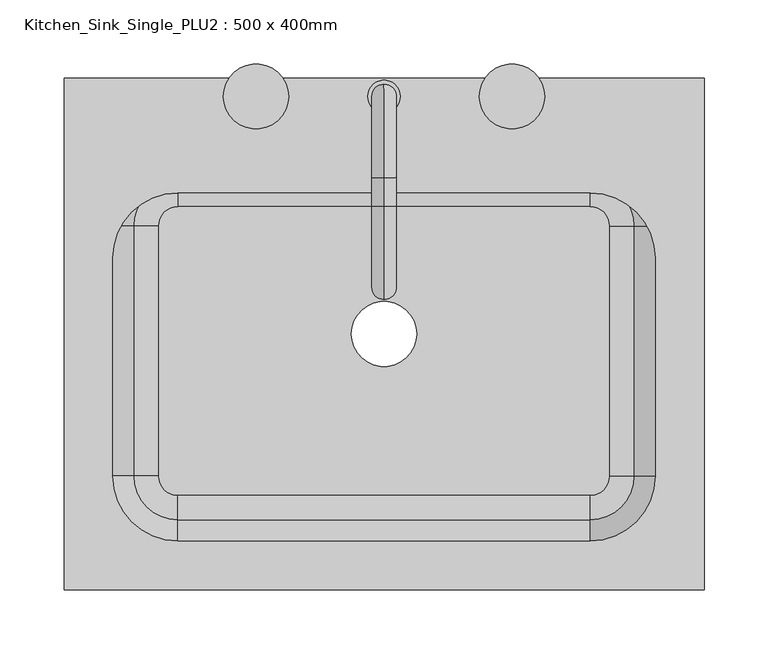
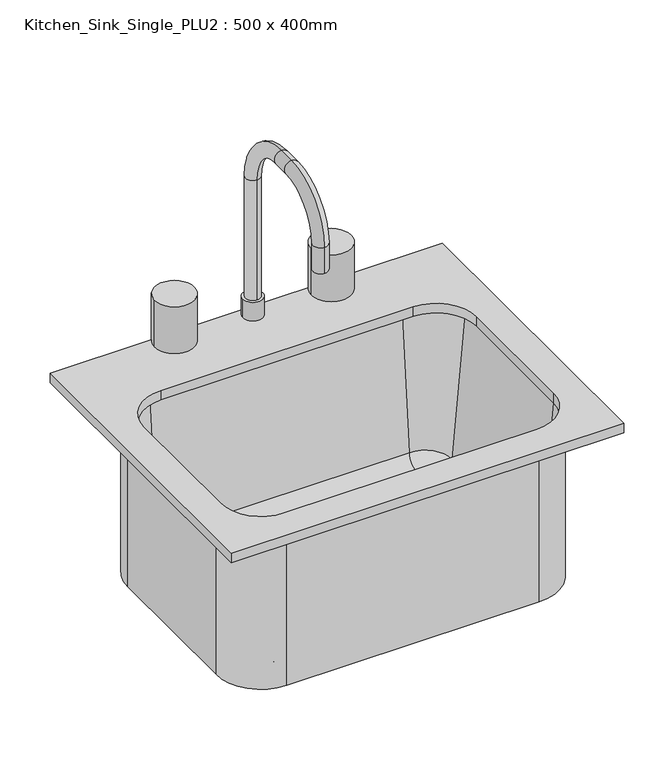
"""IFC4 building model written with IfcOpenShell, lengths in millimetres: flow terminal geometry, Kitchen_Sink_Single_PLU2 : 500 x 400mm."""

from ifc_helpers import new_model, si_unit, point, frame, frame_2d, origin, origin_with_axes, place, context, project, spatial, polyline, circle_curve, ellipse_curve, trimmed, segment, composite_curve, outline, extrude, source, transform, mapped, element, save
from ifc_brep_helpers import plane_surface, cylinder_surface, revolved_surface, advanced_brep


def kitchen_sink_single_plu2_500_x_400mm_02a16abf(model_context):
    return source(origin(), model_context, "Body", "SolidModel", [
        extrude(outline(polyline([(250.0, 200.0), (250.0, -200.0), (-250.0, -200.0), (-250.0, 200.0), (250.0, 200.0)]), holes=[composite_curve([segment(polyline([(161.1, 110.0710828), (-161.1, 110.0710828)]), True, "CONTINUOUS"), segment(trimmed(circle_curve(frame_2d((-161.1, 59.2710828)), 50.8), [point((-161.1, 110.0710828))], [point((-211.9, 59.2710828))], True, "CARTESIAN"), True, "CONTINUOUS"), segment(polyline([(-211.9, 59.2710828), (-211.9, -111.1)]), True, "CONTINUOUS"), segment(trimmed(circle_curve(frame_2d((-161.1, -111.1)), 50.8), [point((-211.9, -111.1))], [point((-161.1, -161.9))], True, "CARTESIAN"), True, "CONTINUOUS"), segment(polyline([(-161.1, -161.9), (161.1, -161.9)]), True, "CONTINUOUS"), segment(trimmed(circle_curve(frame_2d((161.1, -111.1)), 50.8), [point((161.1, -161.9))], [point((211.9, -111.1))], True, "CARTESIAN"), True, "CONTINUOUS"), segment(polyline([(211.9, -111.1), (211.9, 59.2710828)]), True, "CONTINUOUS"), segment(trimmed(circle_curve(frame_2d((161.1, 59.2710828)), 50.8), [point((211.9, 59.2710828))], [point((161.1, 110.0710828))], True, "CARTESIAN"), True, "CONTINUOUS")], self_intersect=False)]), origin_with_axes(), (0.0, 0.0, 1.0), 12.7),
        extrude(outline(composite_curve([segment(trimmed(circle_curve(frame_2d((0.0, 185.59958)), 12.7), [point((-12.7, 185.59958))], [point((12.7, 185.59958))], False, "CARTESIAN"), True, "CONTINUOUS"), segment(trimmed(circle_curve(frame_2d((0.0, 185.59958)), 12.7), [point((12.7, 185.59958))], [point((-12.7, 185.59958))], False, "CARTESIAN"), True, "CONTINUOUS")], self_intersect=False)), frame((0.0, 0.0, 12.7), z_axis=(0.0, 0.0, 1.0), x_axis=(1.0, 0.0, 0.0)), (0.0, 0.0, 1.0), 25.4),
        advanced_brep(
        [(0.0, 195.12458, 12.7), (0.0, 176.07458, 12.7), (0.0, 195.12458, 200.025), (0.0, 176.07458, 200.025), (0.0, 122.09958, 254.0), (0.0, 122.09958, 273.05), (0.0, 99.87458, 273.05), (0.0, 99.87458, 254.0), (0.0, 45.89958, 200.025), (0.0, 26.84958, 200.025), (0.0, 26.84958, 165.1), (0.0, 45.89958, 165.1)],
        [
            (0, 1, circle_curve(frame((0.0, 185.59958, 12.7), z_axis=(0.0, 0.0, -1.0), x_axis=(0.0, -1.0, 0.0)), 9.525)),
            (1, 0, circle_curve(frame((0.0, 185.59958, 12.7), z_axis=(0.0, 0.0, -1.0), x_axis=(0.0, -1.0, 0.0)), 9.525)),
            (0, 2),
            (2, 3, circle_curve(frame((0.0, 185.59958, 200.025), z_axis=(0.0, 0.0, -1.0), x_axis=(0.0, -1.0, 0.0)), 9.525)),
            (3, 1),
            (3, 2, circle_curve(frame((0.0, 185.59958, 200.025), z_axis=(0.0, 0.0, -1.0), x_axis=(0.0, -1.0, 0.0)), 9.525)),
            (4, 3, circle_curve(frame((0.0, 122.09958, 200.025), z_axis=(-1.0, 0.0, 0.0), x_axis=(0.0, 1.0, 0.0)), 53.975)),
            (2, 5, circle_curve(frame((0.0, 122.09958, 200.025), z_axis=(1.0, 0.0, 0.0), x_axis=(0.0, 1.0, 0.0)), 73.025)),
            (5, 4, circle_curve(frame((0.0, 122.09958, 263.525), z_axis=(0.0, 1.0, 0.0), x_axis=(0.0, 0.0, -1.0)), 9.525)),
            (4, 5, circle_curve(frame((0.0, 122.09958, 263.525), z_axis=(0.0, 1.0, 0.0), x_axis=(0.0, 0.0, -1.0)), 9.525)),
            (5, 6),
            (6, 7, circle_curve(frame((0.0, 99.87458, 263.525), z_axis=(0.0, 1.0, 0.0), x_axis=(0.0, 0.0, -1.0)), 9.525)),
            (7, 4),
            (7, 6, circle_curve(frame((0.0, 99.87458, 263.525), z_axis=(0.0, 1.0, 0.0), x_axis=(0.0, 0.0, -1.0)), 9.525)),
            (8, 7, circle_curve(frame((0.0, 99.87458, 200.025), z_axis=(-1.0, 0.0, 0.0), x_axis=(0.0, 0.0, 1.0)), 53.975)),
            (6, 9, circle_curve(frame((0.0, 99.87458, 200.025), z_axis=(1.0, 0.0, 0.0), x_axis=(0.0, 0.0, 1.0)), 73.025)),
            (9, 8, circle_curve(frame((0.0, 36.37458, 200.025), z_axis=(0.0, 0.0, 1.0), x_axis=(0.0, 1.0, 0.0)), 9.525)),
            (8, 9, circle_curve(frame((0.0, 36.37458, 200.025), z_axis=(0.0, 0.0, 1.0), x_axis=(0.0, 1.0, 0.0)), 9.525)),
            (10, 11, circle_curve(frame((0.0, 36.37458, 165.1), z_axis=(0.0, 0.0, -1.0), x_axis=(0.0, 1.0, 0.0)), 9.525)),
            (11, 10, circle_curve(frame((0.0, 36.37458, 165.1), z_axis=(0.0, 0.0, -1.0), x_axis=(0.0, 1.0, 0.0)), 9.525)),
            (9, 10),
            (11, 8),
        ],
        [
            plane_surface(frame((0.0, 176.07458, 12.7), z_axis=(0.0, 0.0, -1.0), x_axis=(1.0, 0.0, 0.0))),
            cylinder_surface(frame((0.0, 185.59958, 12.7), z_axis=(0.0, 0.0, -1.0), x_axis=(0.0, -1.0, 0.0)), 9.525),
            revolved_surface(trimmed(ellipse_curve(frame((0.0, 185.59958, 200.025), z_axis=(0.0, 0.0, -1.0), x_axis=(0.0, -1.0, 0.0)), 9.525, 9.525), [point((0.0, 195.12458, 200.025))], [point((0.0, 176.07458, 200.025))], True, "CARTESIAN"), (0.0, 122.09958, 200.025), (1.0, 0.0, 0.0)),
            revolved_surface(trimmed(ellipse_curve(frame((0.0, 185.59958, 200.025), z_axis=(0.0, 0.0, -1.0), x_axis=(0.0, -1.0, 0.0)), 9.525, 9.525), [point((0.0, 176.07458, 200.025))], [point((0.0, 195.12458, 200.025))], True, "CARTESIAN"), (0.0, 122.09958, 200.025), (1.0, 0.0, 0.0)),
            cylinder_surface(frame((0.0, 122.09958, 263.525), z_axis=(0.0, 1.0, 0.0), x_axis=(0.0, 0.0, -1.0)), 9.525),
            revolved_surface(trimmed(ellipse_curve(frame((0.0, 99.87458, 263.525), z_axis=(0.0, 1.0, 0.0), x_axis=(0.0, 0.0, -1.0)), 9.525, 9.525), [point((0.0, 99.87458, 273.05))], [point((0.0, 99.87458, 254.0))], True, "CARTESIAN"), (0.0, 99.87458, 200.025), (1.0, 0.0, 0.0)),
            revolved_surface(trimmed(ellipse_curve(frame((0.0, 99.87458, 263.525), z_axis=(0.0, 1.0, 0.0), x_axis=(0.0, 0.0, -1.0)), 9.525, 9.525), [point((0.0, 99.87458, 254.0))], [point((0.0, 99.87458, 273.05))], True, "CARTESIAN"), (0.0, 99.87458, 200.025), (1.0, 0.0, 0.0)),
            plane_surface(frame((0.0, 26.84958, 165.1), z_axis=(0.0, 0.0, -1.0), x_axis=(-1.0, 0.0, 0.0))),
            cylinder_surface(frame((0.0, 36.37458, 200.025), z_axis=(0.0, 0.0, 1.0), x_axis=(0.0, 1.0, 0.0)), 9.525),
        ],
        [
            (0, [[1, 2]]),
            (1, [[-1, 3, 4, 5]]),
            (1, [[-2, -5, 6, -3]]),
            (2, [[7, -4, 8, 9]]),
            (3, [[-8, -6, -7, 10]]),
            (4, [[-9, 11, 12, 13]]),
            (4, [[-10, -13, 14, -11]]),
            (5, [[15, -12, 16, 17]]),
            (6, [[-16, -14, -15, 18]]),
            (7, [[19, 20]]),
            (8, [[-17, 21, -20, 22]]),
            (8, [[-18, -22, -19, -21]]),
        ],
    ),
        extrude(outline(composite_curve([segment(trimmed(circle_curve(frame_2d((-100.0, 185.59958)), 25.4), [point((-125.4, 185.59958))], [point((-74.6, 185.59958))], False, "CARTESIAN"), True, "CONTINUOUS"), segment(trimmed(circle_curve(frame_2d((-100.0, 185.59958)), 25.4), [point((-74.6, 185.59958))], [point((-125.4, 185.59958))], False, "CARTESIAN"), True, "CONTINUOUS")], self_intersect=False)), frame((0.0, 0.0, 12.7), z_axis=(0.0, 0.0, 1.0), x_axis=(1.0, 0.0, 0.0)), (0.0, 0.0, 1.0), 63.5),
        extrude(outline(composite_curve([segment(trimmed(circle_curve(frame_2d((100.0, 185.59958)), 25.4), [point((74.6, 185.59958))], [point((125.4, 185.59958))], False, "CARTESIAN"), True, "CONTINUOUS"), segment(trimmed(circle_curve(frame_2d((100.0, 185.59958)), 25.4), [point((125.4, 185.59958))], [point((74.6, 185.59958))], False, "CARTESIAN"), True, "CONTINUOUS")], self_intersect=False)), frame((0.0, 0.0, 12.7), z_axis=(0.0, 0.0, 1.0), x_axis=(1.0, 0.0, 0.0)), (0.0, 0.0, 1.0), 63.5),
        advanced_brep(
        [(218.25, 84.2710828, -215.9), (161.1, 141.4210828, -215.9), (161.1, 141.4210828, 0.0), (218.25, 84.2710828, 0.0), (195.3659272, 84.2710828, -188.9853169), (161.1, 118.53701, -188.9853169), (161.1, 99.559501, -206.375), (176.3884182, 84.2710828, -206.375), (211.9, 84.2710828, 0.0), (161.1, 135.0710828, 0.0), (218.25, -111.1, 0.0), (218.25, -111.1, -215.9), (176.3884182, -111.1, -206.375), (195.3659272, -111.1, -188.9853169), (211.9, -111.1, 0.0), (161.1, -168.25, 0.0), (161.1, -168.25, -215.9), (161.1, -126.3884182, -206.375), (161.1, -145.3659272, -188.9853169), (161.1, -161.9, 0.0), (-161.1, -168.25, 0.0), (-161.1, -168.25, -215.9), (-161.1, -126.3884182, -206.375), (-161.1, -145.3659272, -188.9853169), (-161.1, -161.9, 0.0), (-218.25, -111.1, 0.0), (-218.25, -111.1, -215.9), (-176.3884182, -111.1, -206.375), (-195.3659272, -111.1, -188.9853169), (-211.9, -111.1, 0.0), (-218.25, 84.2710828, 0.0), (-218.25, 84.2710828, -215.9), (-176.3884182, 84.2710828, -206.375), (-195.3659272, 84.2710828, -188.9853169), (-211.9, 84.2710828, 0.0), (-161.1, 141.4210828, 0.0), (-161.1, 141.4210828, -215.9), (-161.1, 99.559501, -206.375), (-161.1, 118.53701, -188.9853169), (-161.1, 135.0710828, 0.0), (-25.4, 0.0, -215.9), (25.4, 0.0, -215.9), (-25.4, 0.0, -206.375), (25.4, 0.0, -206.375)],
        [
            (0, 1, circle_curve(frame((161.1, 84.2710828, -215.9), z_axis=(0.0, 0.0, 1.0), x_axis=(0.0, 1.0, 0.0)), 57.15)),
            (1, 2),
            (2, 3, circle_curve(frame((161.1, 84.2710828, 0.0), z_axis=(0.0, 0.0, -1.0), x_axis=(0.0, 1.0, 0.0)), 57.15)),
            (3, 0),
            (4, 5, circle_curve(frame((161.1, 84.2710828, -188.9853169), z_axis=(0.0, 0.0, 1.0), x_axis=(0.0, 1.0, 0.0)), 34.2659272)),
            (5, 6, circle_curve(frame((161.1, 99.559501, -187.325), z_axis=(-1.0, 0.0, 0.0), x_axis=(0.0, 1.0, 0.0)), 19.05)),
            (6, 7, circle_curve(frame((161.1, 84.2710828, -206.375), z_axis=(0.0, 0.0, -1.0), x_axis=(0.0, 1.0, 0.0)), 15.2884182)),
            (7, 4, circle_curve(frame((176.3884182, 84.2710828, -187.325), z_axis=(0.0, -1.0, 0.0), x_axis=(1.0, 0.0, 0.0)), 19.05)),
            (4, 8),
            (8, 9, circle_curve(frame((161.1, 84.2710828, 0.0), z_axis=(0.0, 0.0, 1.0), x_axis=(0.0, 1.0, 0.0)), 50.8)),
            (9, 5),
            (3, 10),
            (10, 11),
            (11, 0),
            (7, 12),
            (12, 13, circle_curve(frame((176.3884182, -111.1, -187.325), z_axis=(0.0, -1.0, 0.0), x_axis=(1.0, 0.0, 0.0)), 19.05)),
            (13, 4),
            (13, 14),
            (14, 8),
            (10, 15, circle_curve(frame((161.1, -111.1, 0.0), z_axis=(0.0, 0.0, -1.0), x_axis=(1.0, 0.0, 0.0)), 57.15)),
            (15, 16),
            (16, 11, circle_curve(frame((161.1, -111.1, -215.9), z_axis=(0.0, 0.0, 1.0), x_axis=(1.0, 0.0, 0.0)), 57.15)),
            (12, 17, circle_curve(frame((161.1, -111.1, -206.375), z_axis=(0.0, 0.0, -1.0), x_axis=(1.0, 0.0, 0.0)), 15.2884182)),
            (17, 18, circle_curve(frame((161.1, -126.3884182, -187.325), z_axis=(-1.0, 0.0, 0.0), x_axis=(0.0, -1.0, 0.0)), 19.05)),
            (18, 13, circle_curve(frame((161.1, -111.1, -188.9853169), z_axis=(0.0, 0.0, 1.0), x_axis=(1.0, 0.0, 0.0)), 34.2659272)),
            (18, 19),
            (19, 14, circle_curve(frame((161.1, -111.1, 0.0), z_axis=(0.0, 0.0, 1.0), x_axis=(1.0, 0.0, 0.0)), 50.8)),
            (15, 20),
            (20, 21),
            (21, 16),
            (17, 22),
            (22, 23, circle_curve(frame((-161.1, -126.3884182, -187.325), z_axis=(-1.0, 0.0, 0.0), x_axis=(0.0, -1.0, 0.0)), 19.05)),
            (23, 18),
            (23, 24),
            (24, 19),
            (20, 25, circle_curve(frame((-161.1, -111.1, 0.0), z_axis=(0.0, 0.0, -1.0), x_axis=(0.0, -1.0, 0.0)), 57.15)),
            (25, 26),
            (26, 21, circle_curve(frame((-161.1, -111.1, -215.9), z_axis=(0.0, 0.0, 1.0), x_axis=(0.0, -1.0, 0.0)), 57.15)),
            (22, 27, circle_curve(frame((-161.1, -111.1, -206.375), z_axis=(0.0, 0.0, -1.0), x_axis=(0.0, -1.0, 0.0)), 15.2884182)),
            (27, 28, circle_curve(frame((-176.3884182, -111.1, -187.325), z_axis=(0.0, 1.0, 0.0), x_axis=(-1.0, 0.0, 0.0)), 19.05)),
            (28, 23, circle_curve(frame((-161.1, -111.1, -188.9853169), z_axis=(0.0, 0.0, 1.0), x_axis=(0.0, -1.0, 0.0)), 34.2659272)),
            (28, 29),
            (29, 24, circle_curve(frame((-161.1, -111.1, 0.0), z_axis=(0.0, 0.0, 1.0), x_axis=(0.0, -1.0, 0.0)), 50.8)),
            (25, 30),
            (30, 31),
            (31, 26),
            (27, 32),
            (32, 33, circle_curve(frame((-176.3884182, 84.2710828, -187.325), z_axis=(0.0, 1.0, 0.0), x_axis=(-1.0, 0.0, 0.0)), 19.05)),
            (33, 28),
            (33, 34),
            (34, 29),
            (30, 35, circle_curve(frame((-161.1, 84.2710828, 0.0), z_axis=(0.0, 0.0, -1.0), x_axis=(-1.0, 0.0, 0.0)), 57.15)),
            (35, 36),
            (36, 31, circle_curve(frame((-161.1, 84.2710828, -215.9), z_axis=(0.0, 0.0, 1.0), x_axis=(-1.0, 0.0, 0.0)), 57.15)),
            (32, 37, circle_curve(frame((-161.1, 84.2710828, -206.375), z_axis=(0.0, 0.0, -1.0), x_axis=(-1.0, 0.0, 0.0)), 15.2884182)),
            (37, 38, circle_curve(frame((-161.1, 99.559501, -187.325), z_axis=(1.0, 0.0, 0.0), x_axis=(0.0, 1.0, 0.0)), 19.05)),
            (38, 33, circle_curve(frame((-161.1, 84.2710828, -188.9853169), z_axis=(0.0, 0.0, 1.0), x_axis=(-1.0, 0.0, 0.0)), 34.2659272)),
            (38, 39),
            (39, 34, circle_curve(frame((-161.1, 84.2710828, 0.0), z_axis=(0.0, 0.0, 1.0), x_axis=(-1.0, 0.0, 0.0)), 50.8)),
            (1, 36),
            (35, 2),
            (40, 41, circle_curve(frame((0.0, 0.0, -215.9), z_axis=(0.0, 0.0, 1.0), x_axis=(1.0, 0.0, 0.0)), 25.4)),
            (41, 40, circle_curve(frame((0.0, 0.0, -215.9), z_axis=(0.0, 0.0, 1.0), x_axis=(1.0, 0.0, 0.0)), 25.4)),
            (6, 37),
            (42, 43, circle_curve(frame((0.0, 0.0, -206.375), z_axis=(0.0, 0.0, -1.0), x_axis=(1.0, 0.0, 0.0)), 25.4)),
            (43, 42, circle_curve(frame((0.0, 0.0, -206.375), z_axis=(0.0, 0.0, -1.0), x_axis=(1.0, 0.0, 0.0)), 25.4)),
            (5, 38),
            (9, 39),
            (42, 40),
            (41, 43),
        ],
        [
            cylinder_surface(frame((161.1, 84.2710828, 0.0), z_axis=(0.0, 0.0, -1.0), x_axis=(0.0, 1.0, 0.0)), 57.15),
            revolved_surface(trimmed(ellipse_curve(frame((161.1, 99.559501, -187.325), z_axis=(1.0, 0.0, 0.0), x_axis=(0.0, 1.0, 0.0)), 19.05, 19.05), [point((161.1, 99.559501, -206.375))], [point((161.1, 118.53701, -188.9853169))], True, "CARTESIAN"), (161.1, 84.2710828, 0.0), (0.0, 0.0, -1.0)),
            revolved_surface(polyline([(161.1, 118.53701, -188.9853169), (161.1, 135.0710828, 0.0)]), (161.1, 84.2710828, 0.0), (0.0, 0.0, -1.0)),
            plane_surface(frame((218.25, 84.2710828, 0.0), z_axis=(1.0, 0.0, 0.0), x_axis=(0.0, -1.0, 0.0))),
            revolved_surface(polyline([(195.4384182, -111.10000000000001, -187.325), (195.4384182, 84.2710828, -187.325)]), (176.3884182, 84.2710828, -187.325), (0.0, -1.0, 0.0)),
            plane_surface(frame((195.3659272, 84.2710828, -188.9853169), z_axis=(-0.9961946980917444, 0.0, 0.08715574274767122), x_axis=(0.0, -1.0, 0.0))),
            cylinder_surface(frame((161.1, -111.1, 0.0), z_axis=(0.0, 0.0, -1.0), x_axis=(1.0, 0.0, 0.0)), 57.15),
            revolved_surface(trimmed(ellipse_curve(frame((176.3884182, -111.1, -187.325), z_axis=(0.0, -1.0, 0.0), x_axis=(1.0, 0.0, 0.0)), 19.05, 19.05), [point((176.3884182, -111.1, -206.375))], [point((195.3659272, -111.1, -188.9853169))], True, "CARTESIAN"), (161.1, -111.1, 0.0), (0.0, 0.0, -1.0)),
            revolved_surface(polyline([(195.3659272, -111.1, -188.9853169), (211.9, -111.1, 0.0)]), (161.1, -111.1, 0.0), (0.0, 0.0, -1.0)),
            plane_surface(frame((161.1, -168.25, 0.0), z_axis=(0.0, -1.0, 0.0), x_axis=(-1.0, 0.0, 0.0))),
            revolved_surface(polyline([(-161.1, -145.4384182, -187.325), (161.1, -145.4384182, -187.325)]), (161.1, -126.3884182, -187.325), (-1.0, 0.0, 0.0)),
            plane_surface(frame((161.1, -145.3659272, -188.9853169), z_axis=(0.0, 0.9961946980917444, 0.08715574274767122), x_axis=(-1.0, 0.0, 0.0))),
            cylinder_surface(frame((-161.1, -111.1, 0.0), z_axis=(0.0, 0.0, -1.0), x_axis=(0.0, -1.0, 0.0)), 57.15),
            revolved_surface(trimmed(ellipse_curve(frame((-161.1, -126.3884182, -187.325), z_axis=(-1.0, 0.0, 0.0), x_axis=(0.0, -1.0, 0.0)), 19.05, 19.05), [point((-161.1, -126.3884182, -206.375))], [point((-161.1, -145.3659272, -188.9853169))], True, "CARTESIAN"), (-161.1, -111.1, 0.0), (0.0, 0.0, -1.0)),
            revolved_surface(polyline([(-161.1, -145.3659272, -188.9853169), (-161.1, -161.9, 0.0)]), (-161.1, -111.1, 0.0), (0.0, 0.0, -1.0)),
            plane_surface(frame((-218.25, -111.1, 0.0), z_axis=(-1.0, 0.0, 0.0), x_axis=(0.0, 1.0, 0.0))),
            revolved_surface(polyline([(-195.4384182, 84.27108280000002, -187.325), (-195.4384182, -111.1, -187.325)]), (-176.3884182, -111.1, -187.325), (0.0, 1.0, 0.0)),
            plane_surface(frame((-195.3659272, -111.1, -188.9853169), z_axis=(0.9961946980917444, 0.0, 0.08715574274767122), x_axis=(0.0, 1.0, 0.0))),
            cylinder_surface(frame((-161.1, 84.2710828, 0.0), z_axis=(0.0, 0.0, -1.0), x_axis=(-1.0, 0.0, 0.0)), 57.15),
            revolved_surface(trimmed(ellipse_curve(frame((-176.3884182, 84.2710828, -187.325), z_axis=(0.0, 1.0, 0.0), x_axis=(-1.0, 0.0, 0.0)), 19.05, 19.05), [point((-176.3884182, 84.2710828, -206.375))], [point((-195.3659272, 84.2710828, -188.9853169))], True, "CARTESIAN"), (-161.1, 84.2710828, 0.0), (0.0, 0.0, -1.0)),
            revolved_surface(polyline([(-195.3659272, 84.2710828, -188.9853169), (-211.9, 84.2710828, 0.0)]), (-161.1, 84.2710828, 0.0), (0.0, 0.0, -1.0)),
            plane_surface(frame((-161.1, 141.4210828, 0.0), z_axis=(0.0, 1.0, 0.0), x_axis=(1.0, 0.0, 0.0))),
            plane_surface(frame((-161.1, 141.4210828, -215.9), z_axis=(0.0, 0.0, -1.0), x_axis=(1.0, 0.0, 0.0))),
            plane_surface(frame((-161.1, 96.9710828, -206.375), z_axis=(0.0, 0.0, 1.0), x_axis=(1.0, 0.0, 0.0))),
            revolved_surface(polyline([(161.1, 118.609501, -187.325), (-161.1, 118.609501, -187.325)]), (-161.1, 99.559501, -187.325), (1.0, 0.0, 0.0)),
            plane_surface(frame((-161.1, 118.53701, -188.9853169), z_axis=(0.0, -0.9961946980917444, 0.08715574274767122), x_axis=(1.0, 0.0, 0.0))),
            plane_surface(frame((-161.1, 135.0710828, 0.0), z_axis=(0.0, 0.0, 1.0), x_axis=(1.0, 0.0, 0.0))),
            revolved_surface(polyline([(25.4, 0.0, -215.89999999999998), (25.4, 0.0, -206.375)]), (0.0, 0.0, -900.0), (0.0, 0.0, -1.0)),
        ],
        [
            (0, [[1, 2, 3, 4]]),
            (1, [[5, 6, 7, 8]]),
            (2, [[-5, 9, 10, 11]]),
            (3, [[-4, 12, 13, 14]]),
            (4, [[-8, 15, 16, 17]]),
            (5, [[-9, -17, 18, 19]]),
            (6, [[-13, 20, 21, 22]]),
            (7, [[-16, 23, 24, 25]]),
            (8, [[-18, -25, 26, 27]]),
            (9, [[-21, 28, 29, 30]]),
            (10, [[-24, 31, 32, 33]]),
            (11, [[-26, -33, 34, 35]]),
            (12, [[-29, 36, 37, 38]]),
            (13, [[-32, 39, 40, 41]]),
            (14, [[-34, -41, 42, 43]]),
            (15, [[-37, 44, 45, 46]]),
            (16, [[-40, 47, 48, 49]]),
            (17, [[-42, -49, 50, 51]]),
            (18, [[-45, 52, 53, 54]]),
            (19, [[-48, 55, 56, 57]]),
            (20, [[-50, -57, 58, 59]]),
            (21, [[-2, 60, -53, 61]]),
            (22, [[-1, -14, -22, -30, -38, -46, -54, -60], [62, 63]]),
            (23, [[-7, 64, -55, -47, -39, -31, -23, -15], [65, 66]]),
            (24, [[-6, 67, -56, -64]]),
            (25, [[-11, 68, -58, -67]]),
            (26, [[-3, -61, -52, -44, -36, -28, -20, -12], [-10, -19, -27, -35, -43, -51, -59, -68]]),
            (27, [[-65, 69, -63, 70]]),
            (27, [[-66, -70, -62, -69]]),
        ],
    ),
    ])


if __name__ == "__main__":
    model = new_model("IFC4")
    model_context = context("Model", 3, world=origin())
    ifc_project = project(units=[si_unit("LENGTHUNIT", "METRE", prefix="MILLI")], contexts=[model_context])
    site = spatial("IfcSite", under=ifc_project)
    building = spatial("IfcBuilding", under=site)
    placement = place(None, origin())
    kitchen_sink_single_plu2_500_x_400mm_shape = kitchen_sink_single_plu2_500_x_400mm_02a16abf(model_context)
    element("IfcFlowTerminal", 1, ObjectType="Kitchen_Sink_Single_PLU2 : 500 x 400mm", at=placement, inside=building, context=model_context, shape_type="MappedRepresentation", body=[
        mapped(kitchen_sink_single_plu2_500_x_400mm_shape, transform((0.0, 0.0, 0.0), x_axis=(1.0, 0.0, 0.0), y_axis=(0.0, 1.0, 0.0), z_axis=(0.0, 0.0, 1.0))),
    ])
    save(model, "model.ifc")
